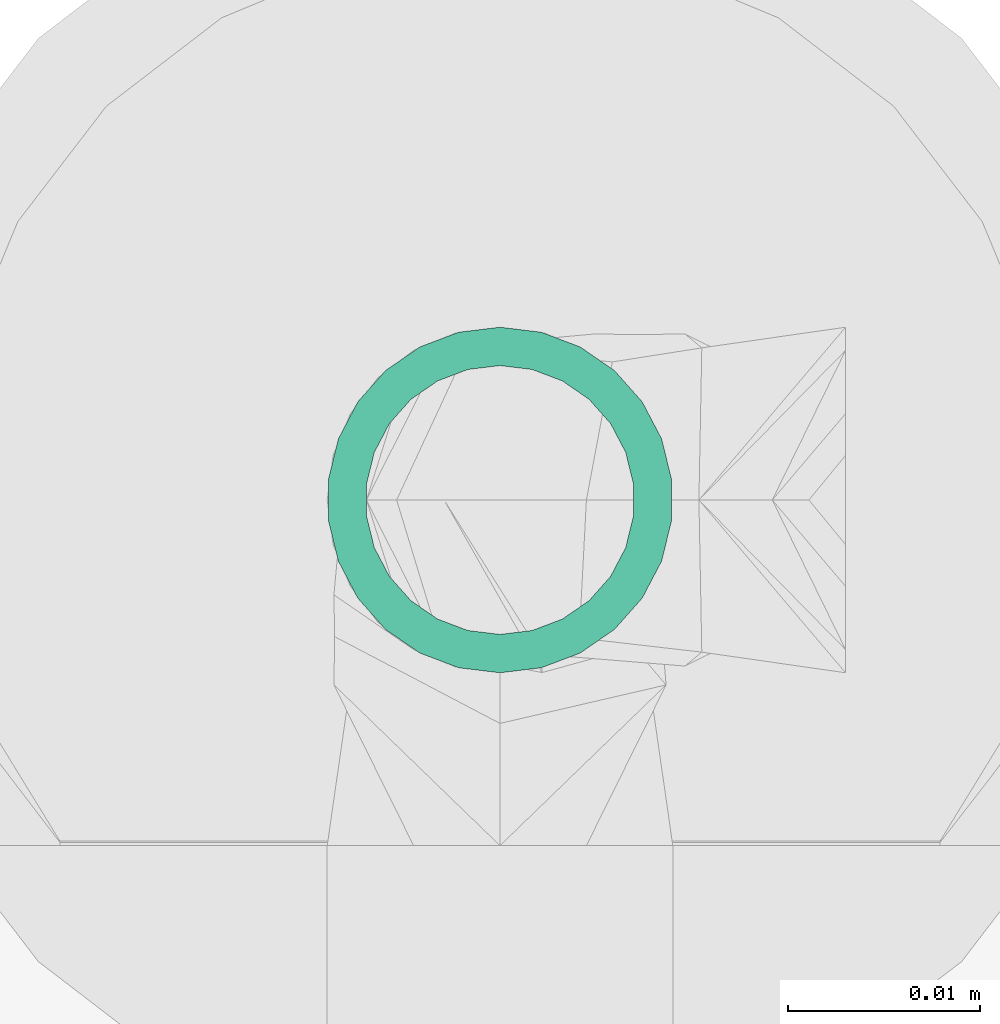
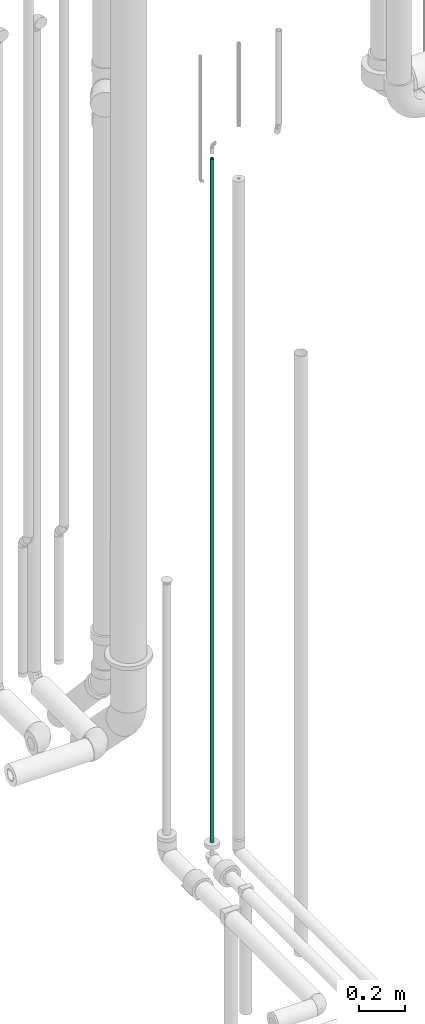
# One storey, part 18 of 78: 1 flow segment.
"""IFC2X3 building model written with IfcOpenShell, lengths in millimetres."""

from ifc_helpers import new_model, entity, si_unit, converted_unit, derived_unit, direction, frame, origin_with_axes, origin_2d_with_axis, place, context, subcontext, project, spatial, hollow_circle, extrude, source, transform, mapped, type_object, element, save


model = new_model("IFC2X3")

# Units and contexts
model_context = context("Model", 3, precision=0.01, world=frame((0.0, 4.29681676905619e-09, 0.0)), true_north=direction((4.01073788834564e-13, 1.0)))
plan_context = context("Plan", 3, precision=0.01, world=frame((0.0, 4.29681676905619e-09, 0.0)), true_north=direction((4.01073788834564e-13, 1.0)))
body_context = subcontext(model_context, "Body", "Model", "MODEL_VIEW")
ifc_project = project(units=[converted_unit("PLANEANGLEUNIT", "DEGREE", entity("IfcPositiveLengthMeasure", 0.0174532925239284), si_unit("PLANEANGLEUNIT", "RADIAN"), dimensions=[0, 0, 0, 0, 0, 0, 0]), si_unit("AREAUNIT", "SQUARE_METRE"), si_unit("LENGTHUNIT", "METRE", prefix="MILLI"), si_unit("MASSUNIT", "GRAM", prefix="KILO"), si_unit("POWERUNIT", "WATT"), si_unit("PRESSUREUNIT", "PASCAL"), si_unit("FORCEUNIT", "NEWTON", prefix="KILO"), si_unit("ELECTRICVOLTAGEUNIT", "VOLT"), si_unit("ELECTRICCURRENTUNIT", "AMPERE"), si_unit("THERMODYNAMICTEMPERATUREUNIT", "DEGREE_CELSIUS"), si_unit("TIMEUNIT", "SECOND"), si_unit("VOLUMEUNIT", "CUBIC_METRE"), derived_unit("LINEARVELOCITYUNIT", [(si_unit("LENGTHUNIT", "METRE"), 1), (si_unit("TIMEUNIT", "SECOND"), -1)]), derived_unit("VOLUMETRICFLOWRATEUNIT", [(si_unit("VOLUMEUNIT", "CUBIC_METRE"), 1), (si_unit("TIMEUNIT", "SECOND"), -1)]), derived_unit("THERMALTRANSMITTANCEUNIT", [(si_unit("POWERUNIT", "WATT"), 1), (si_unit("THERMODYNAMICTEMPERATUREUNIT", "KELVIN"), -1), (si_unit("AREAUNIT", "SQUARE_METRE"), -1)]), derived_unit("SOUNDPRESSUREUNIT", [(si_unit("PRESSUREUNIT", "PASCAL"), 1)])], contexts=[model_context, plan_context])

# Site, building, storey
site_placement = place(None, frame((0.0, -4.29681676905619e-09, 0.0), z_axis=(0.0, 0.0, 1.0), x_axis=(1.0, 0.0, 0.0)))
site = spatial("IfcSite", under=ifc_project, at=site_placement, Name="ENGM", CompositionType="ELEMENT")
building_placement = place(site_placement, frame((0.0, 4.29681676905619e-09, 0.0), z_axis=(0.0, 0.0, 1.0), x_axis=(1.0, 0.0, 0.0)))
building = spatial("IfcBuilding", under=site, at=building_placement, Name="TH", CompositionType="ELEMENT")
storey_placement = place(building_placement, frame((0.0, 0.0, 205200.0), z_axis=(0.0, 0.0, 1.0), x_axis=(1.0, 0.0, 0.0)))
storey = spatial("IfcBuildingStorey", under=building, at=storey_placement, Name="Nivå D + 1,2 m", CompositionType="ELEMENT", Elevation=205200.0)

# Flow segment
pipe_segment_type = type_object("IfcPipeSegmentType", Name="Kobberrør", PredefinedType="RIGIDSEGMENT")
shared_shape = source(origin_with_axes(), body_context, "Body", "SweptSolid", [
    extrude(hollow_circle(Radius=9.0, WallThickness=2.0, at=origin_2d_with_axis()), frame((0.0, 0.0, 0.0), z_axis=(1.0, 0.0, 0.0), x_axis=(0.0, 1.0, 0.0)), (0.0, 0.0, 1.0), 3625.2),
])
flow_segment_placement = place(storey_placement, frame((895520.48466, 478549.2375, 4538.0), z_axis=(1.0, 0.0, 0.0), x_axis=(0.0, 0.0, 1.0)))
element("IfcFlowSegment", 1, at=flow_segment_placement, inside=storey, type_object=pipe_segment_type, Name="Kobberrør", context=body_context, shape_type="MappedRepresentation", body=[
    mapped(shared_shape, transform((0.0, 0.0, 0.0), scale=1.0)),
])

save(model, "model.ifc")
